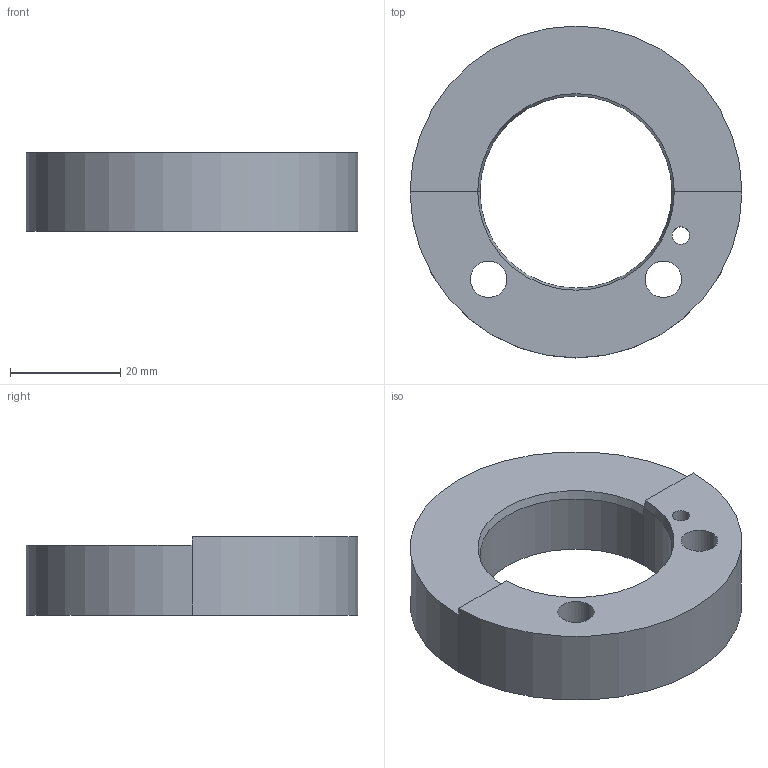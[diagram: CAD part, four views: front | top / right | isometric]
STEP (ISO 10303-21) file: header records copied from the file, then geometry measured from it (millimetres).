
FILE_DESCRIPTION (( 'STEP AP203' ), '1' );
FILE_NAME ('269-18-220.STEP', '2020-03-03T18:29:20', ( '' ), ( '' ), 'SwSTEP 2.0', 'SolidWorks 2017', '' );
FILE_SCHEMA (( 'CONFIG_CONTROL_DESIGN' ));
Length unit declared in the file: inch
Products named in the file (1): 269-18-220
Bounding box: 60.33 x 60.33 x 14.22 mm (x, y, z)
Volume: 24450.9 mm3; surface area: 8410.4 mm2
Topology: 1 solids, 1 shells, 17 faces, 44 edges, 28 vertices
Faces by surface type: cylinder 10, plane 5, cone 2
Entity records: 623 total; most frequent: DIRECTION 102, CARTESIAN_POINT 90, ORIENTED_EDGE 88, EDGE_CURVE 44, AXIS2_PLACEMENT_3D 40, VERTEX_POINT 28, EDGE_LOOP 24, VECTOR 22
